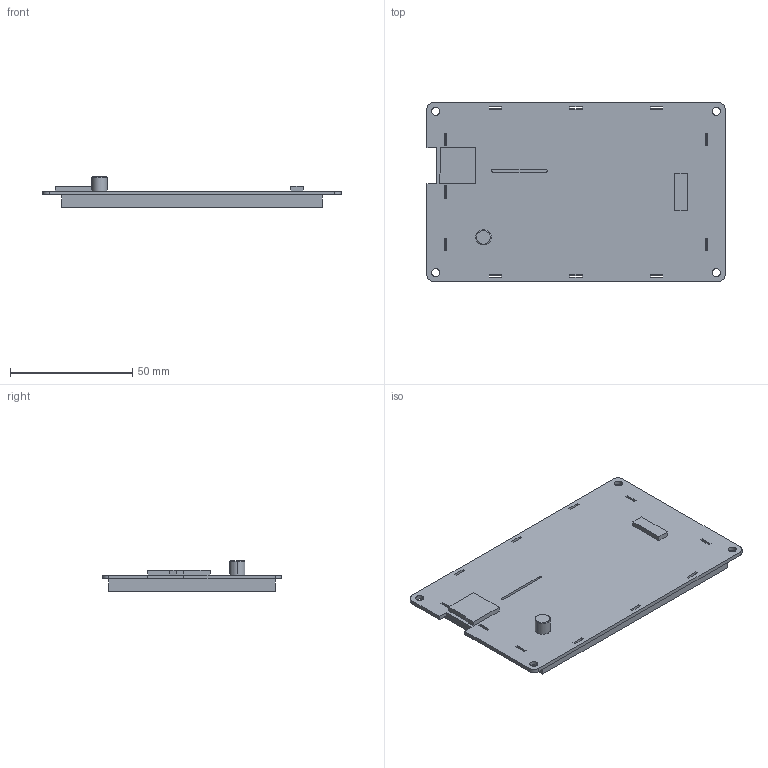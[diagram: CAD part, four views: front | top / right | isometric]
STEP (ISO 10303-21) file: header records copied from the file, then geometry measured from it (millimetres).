
FILE_DESCRIPTION((''),'2;1');
FILE_NAME('3D-DMT48270C043-04WN','2018-12-07T',('Administrator'),(''),'PRO/ENGINEER BY PARAMETRIC TECHNOLOGY CORPORATION, 2011310','PRO/ENGINEER BY PARAMETRIC TECHNOLOGY CORPORATION, 2011310','');
FILE_SCHEMA(('CONFIG_CONTROL_DESIGN','SHAPE_APPEARANCE_LAYERS_GROUPS'));
Length unit declared in the file: millimetre
Products named in the file (1): 3D-DMT48270C043-04WN
Bounding box: 121.92 x 73.15 x 12.4 mm (x, y, z)
Volume: 48858.9 mm3; surface area: 20729.5 mm2
Topology: 1 solids, 1 shells, 109 faces, 343 edges, 236 vertices
Faces by surface type: plane 91, cylinder 16, torus 2
Entity records: 4759 total; most frequent: CARTESIAN_POINT 654, ORIENTED_EDGE 624, DIRECTION 601, EDGE_CURVE 312, VECTOR 307, LINE 307, VERTEX_POINT 200, AXIS2_PLACEMENT_3D 147
